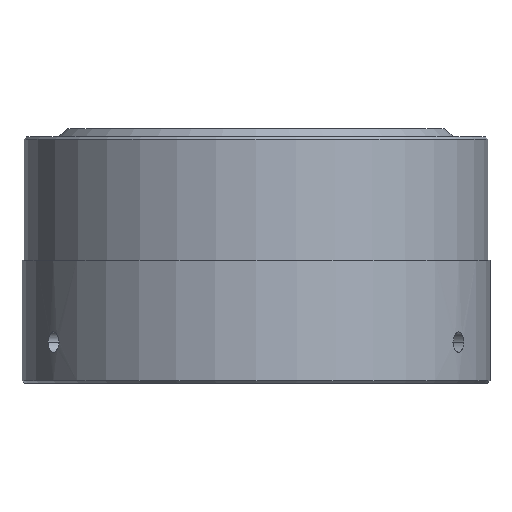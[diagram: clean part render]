
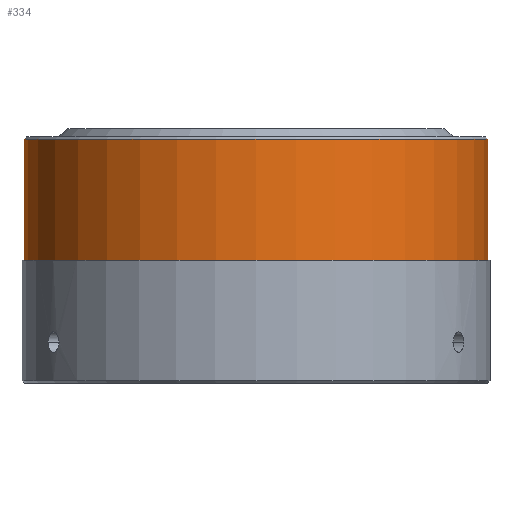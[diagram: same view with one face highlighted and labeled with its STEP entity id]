
A CAD part, front view. The second image highlights one B-rep face of the part: STEP entity #334.
In plain terms, the highlighted cylindrical face has radius 28.25 mm (diameter 56.5 mm), a partial arc.
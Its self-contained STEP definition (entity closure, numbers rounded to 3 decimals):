
#11 = CIRCLE ( 'NONE', #552, 28.25 ) ;
#41 = VECTOR ( 'NONE', #487, 1000. ) ;
#54 = CARTESIAN_POINT ( 'NONE',  ( 28.25, 0., -16. ) ) ;
#65 = EDGE_CURVE ( 'NONE', #495, #1003, #414, .T. ) ;
#78 = EDGE_LOOP ( 'NONE', ( #483, #346, #736, #339 ) ) ;
#82 = LINE ( 'NONE', #967, #41 ) ;
#135 = EDGE_CURVE ( 'NONE', #550, #749, #11, .T. ) ;
#137 = CARTESIAN_POINT ( 'NONE',  ( 0., 0., -16. ) ) ;
#148 = DIRECTION ( 'NONE',  ( 0., 0., 1. ) ) ;
#161 = EDGE_CURVE ( 'NONE', #749, #495, #857, .T. ) ;
#259 = CARTESIAN_POINT ( 'NONE',  ( 28.25, 0., -1.3 ) ) ;
#301 = DIRECTION ( 'NONE',  ( 1., 0., 0. ) ) ;
#334 = ADVANCED_FACE ( 'NONE', ( #1033 ), #980, .T. ) ;
#339 = ORIENTED_EDGE ( 'NONE', *, *, #65, .T. ) ;
#346 = ORIENTED_EDGE ( 'NONE', *, *, #135, .T. ) ;
#383 = DIRECTION ( 'NONE',  ( 0., 0., 1. ) ) ;
#414 = CIRCLE ( 'NONE', #824, 28.25 ) ;
#424 = CARTESIAN_POINT ( 'NONE',  ( -28.25, 0., -16. ) ) ;
#449 = AXIS2_PLACEMENT_3D ( 'NONE', #945, #383, #856 ) ;
#451 = DIRECTION ( 'NONE',  ( -1., 0., 0. ) ) ;
#462 = DIRECTION ( 'NONE',  ( 0., 0., -1. ) ) ;
#483 = ORIENTED_EDGE ( 'NONE', *, *, #763, .F. ) ;
#487 = DIRECTION ( 'NONE',  ( 0., 0., 1. ) ) ;
#495 = VERTEX_POINT ( 'NONE', #259 ) ;
#550 = VERTEX_POINT ( 'NONE', #424 ) ;
#552 = AXIS2_PLACEMENT_3D ( 'NONE', #137, #934, #301 ) ;
#736 = ORIENTED_EDGE ( 'NONE', *, *, #161, .T. ) ;
#749 = VERTEX_POINT ( 'NONE', #54 ) ;
#763 = EDGE_CURVE ( 'NONE', #550, #1003, #82, .T. ) ;
#818 = CARTESIAN_POINT ( 'NONE',  ( -28.25, 0., -1.3 ) ) ;
#824 = AXIS2_PLACEMENT_3D ( 'NONE', #1012, #462, #451 ) ;
#856 = DIRECTION ( 'NONE',  ( 1., 0., 0. ) ) ;
#857 = LINE ( 'NONE', #1034, #875 ) ;
#875 = VECTOR ( 'NONE', #148, 1000. ) ;
#934 = DIRECTION ( 'NONE',  ( 0., 0., 1. ) ) ;
#945 = CARTESIAN_POINT ( 'NONE',  ( 0., 0., 30.693 ) ) ;
#967 = CARTESIAN_POINT ( 'NONE',  ( -28.25, 0., 30.693 ) ) ;
#980 = CYLINDRICAL_SURFACE ( 'NONE', #449, 28.25 ) ;
#1003 = VERTEX_POINT ( 'NONE', #818 ) ;
#1012 = CARTESIAN_POINT ( 'NONE',  ( 0., 0., -1.3 ) ) ;
#1033 = FACE_OUTER_BOUND ( 'NONE', #78, .T. ) ;
#1034 = CARTESIAN_POINT ( 'NONE',  ( 28.25, 0., 30.693 ) ) ;
